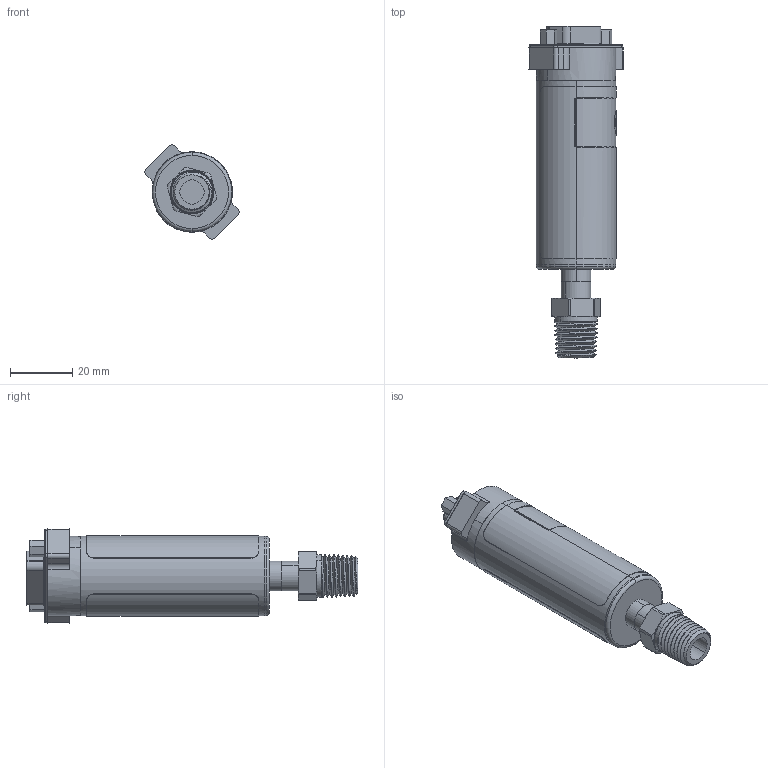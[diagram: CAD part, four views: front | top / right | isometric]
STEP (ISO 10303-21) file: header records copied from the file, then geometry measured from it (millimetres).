
FILE_DESCRIPTION (( 'STEP AP203' ), '1' );
FILE_NAME ('GSD-XXXXXX-D-XXX-NT.STEP', '2025-06-25T15:21:49', ( '' ), ( '' ), 'SwSTEP 2.0', 'SolidWorks 2023', '' );
FILE_SCHEMA (( 'CONFIG_CONTROL_DESIGN' ));
Length unit declared in the file: inch
Products named in the file (4): GSD-XXXXXX-D-XXX-NT; 315Z103; GS D; GSx Body_Integrated Connector
Assembly tree (3 placements, depth 2):
  GSD-XXXXXX-D-XXX-NT
    GSx Body_Integrated Connector
    GS D
    315Z103
Bounding box: 30.22 x 106.28 x 30.22 mm (x, y, z)
Volume: 15108.4 mm3; surface area: 16220.8 mm2
Topology: 4 solids, 6 shells, 372 faces, 959 edges, 601 vertices
Faces by surface type: cylinder 138, plane 103, bspline 41, cone 30, torus 30, sphere 30
Entity records: 20006 total; most frequent: CARTESIAN_POINT 11074, ORIENTED_EDGE 1790, DIRECTION 1749, EDGE_CURVE 895, AXIS2_PLACEMENT_3D 713, VERTEX_POINT 571, EDGE_LOOP 418, CIRCLE 376
